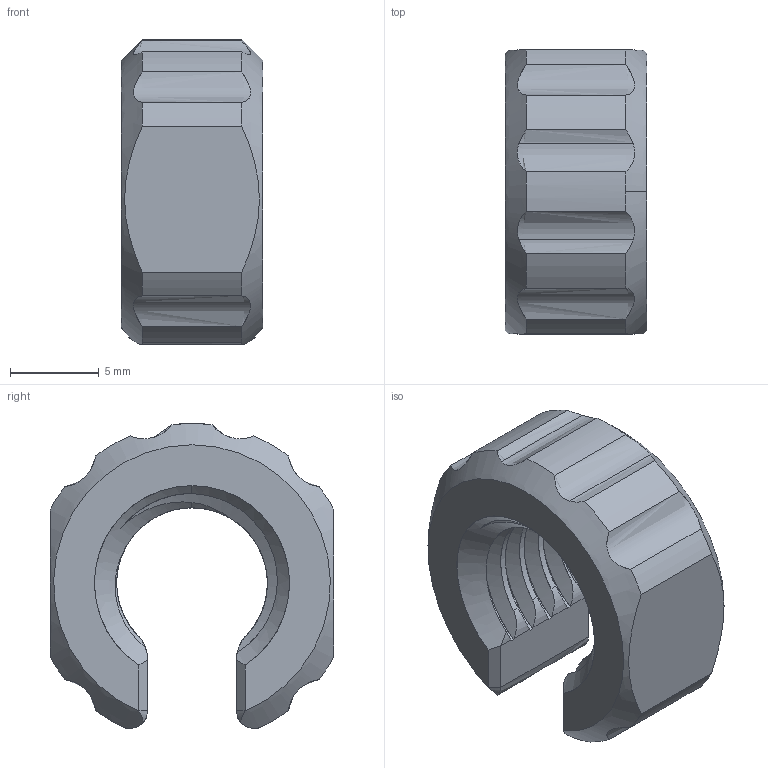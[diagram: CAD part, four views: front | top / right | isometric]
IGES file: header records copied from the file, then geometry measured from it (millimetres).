
Start section: SolidWorks IGES file using analytic representation for surfaces
Global section: file name: C:\Users\emill\Blue Robotics Dropbox\Eldin Miller-Stead\BR-Engineering\PROJECTS\WLP\MODELS\DEVELOPMENT\WL-M10-NUT.IGS; native system: SolidWorks 2020; preprocessor: SolidWorks 2020; author: emill; date: 211220.172541; units: millimetre
Bounding box: 8 x 16 x 17.19 mm (x, y, z)
Surface area: 969.6 mm2 (no closed solid volume)
Topology: 0 solids, 0 shells, 76 faces, 1118 edges, 1118 vertices
Faces by surface type: revolution 48, bspline 28
